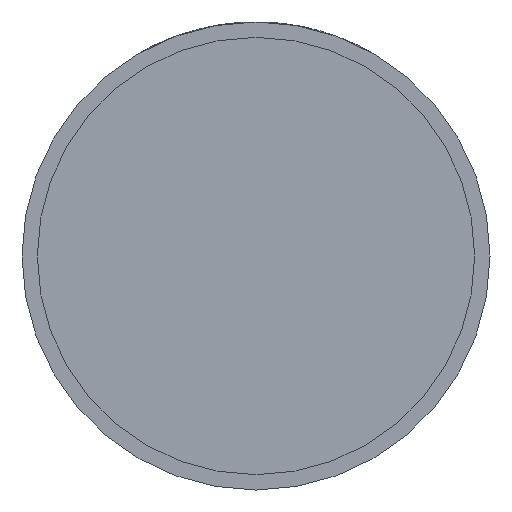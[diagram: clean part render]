
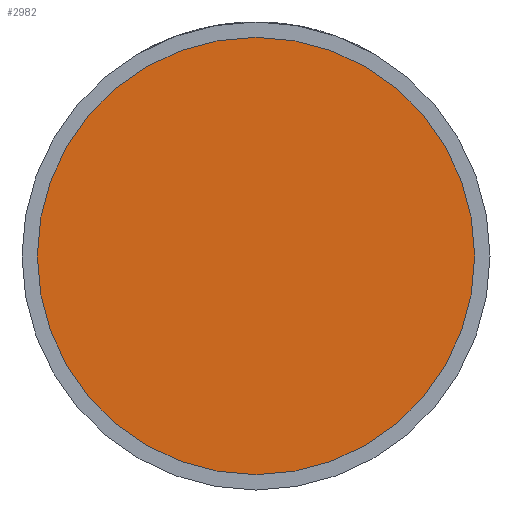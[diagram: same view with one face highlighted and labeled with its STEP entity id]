
A CAD part, front view. The second image highlights one B-rep face of the part: STEP entity #2982.
In plain terms, the highlighted planar face has unit normal (0, -1, 0).
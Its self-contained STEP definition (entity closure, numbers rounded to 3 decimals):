
#28 = CARTESIAN_POINT ( 'NONE',  ( 0., -17.5, 0. ) ) ;
#388 = CARTESIAN_POINT ( 'NONE',  ( -28.5, -17.5, 0. ) ) ;
#390 = FACE_OUTER_BOUND ( 'NONE', #723, .T. ) ;
#454 = VERTEX_POINT ( 'NONE', #3989 ) ;
#461 = AXIS2_PLACEMENT_3D ( 'NONE', #28, #3339, #2707 ) ;
#723 = EDGE_LOOP ( 'NONE', ( #3575, #1101 ) ) ;
#889 = AXIS2_PLACEMENT_3D ( 'NONE', #4290, #2728, #1716 ) ;
#1101 = ORIENTED_EDGE ( 'NONE', *, *, #1669, .T. ) ;
#1102 = EDGE_CURVE ( 'NONE', #454, #1740, #2868, .T. ) ;
#1669 = EDGE_CURVE ( 'NONE', #1740, #454, #3230, .T. ) ;
#1716 = DIRECTION ( 'NONE',  ( 1., 0., 0. ) ) ;
#1740 = VERTEX_POINT ( 'NONE', #388 ) ;
#1966 = PLANE ( 'NONE',  #889 ) ;
#2414 = DIRECTION ( 'NONE',  ( 0., -1., 0. ) ) ;
#2707 = DIRECTION ( 'NONE',  ( 1., 0., 0. ) ) ;
#2728 = DIRECTION ( 'NONE',  ( 0., -1., 0. ) ) ;
#2868 = CIRCLE ( 'NONE', #3414, 28.5 ) ;
#2982 = ADVANCED_FACE ( 'NONE', ( #390 ), #1966, .T. ) ;
#3230 = CIRCLE ( 'NONE', #461, 28.5 ) ;
#3339 = DIRECTION ( 'NONE',  ( 0., -1., 0. ) ) ;
#3344 = DIRECTION ( 'NONE',  ( 1., 0., 0. ) ) ;
#3414 = AXIS2_PLACEMENT_3D ( 'NONE', #3690, #2414, #3344 ) ;
#3575 = ORIENTED_EDGE ( 'NONE', *, *, #1102, .T. ) ;
#3690 = CARTESIAN_POINT ( 'NONE',  ( 0., -17.5, 0. ) ) ;
#3989 = CARTESIAN_POINT ( 'NONE',  ( 28.5, -17.5, 0. ) ) ;
#4290 = CARTESIAN_POINT ( 'NONE',  ( 28.5, -17.5, 0. ) ) ;
